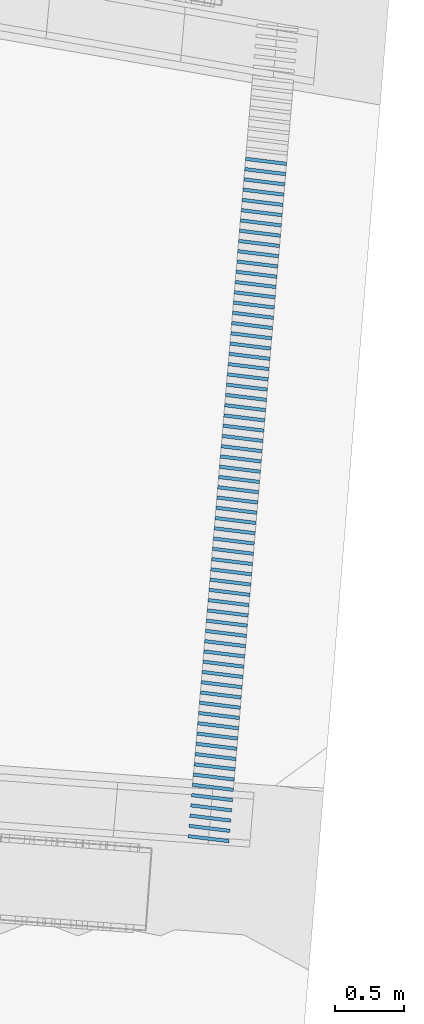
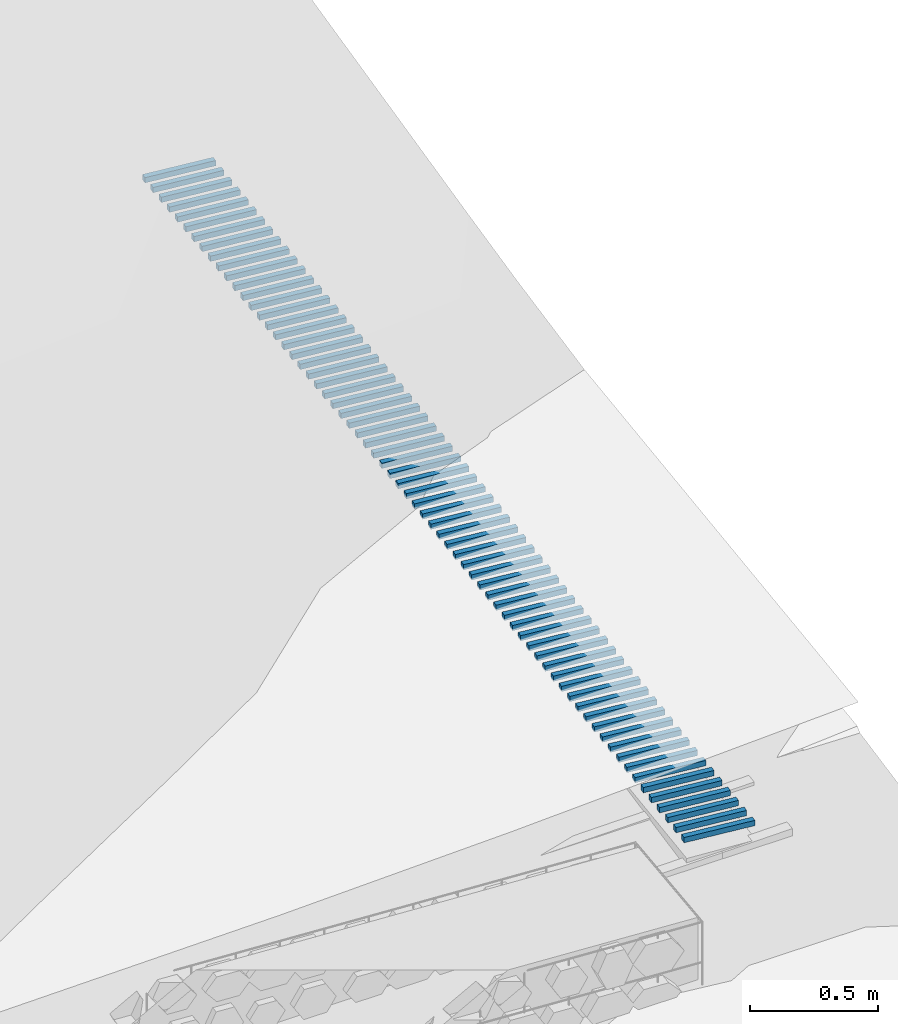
# Not in any storey, part 3 of 46: 67 members.
"""IFC4 model written with IfcOpenShell, lengths in metres."""

from ifc_helpers import new_model, si_unit, direction, frame, origin_with_axes, place, context, subcontext, project, spatial, rectangle, extrude, material, material_profile, profile_set, profile_usage, type_object, element, save


model = new_model("IFC4")

# Units and contexts
model_context = context("Model", 3, precision=1e-05, world=origin_with_axes(), true_north=direction((0.0, 1.0)))
body_context = subcontext(model_context, "Body", "Model", "MODEL_VIEW")
ifc_project = project(units=[si_unit("VOLUMEUNIT", "CUBIC_METRE"), si_unit("LENGTHUNIT", "METRE"), si_unit("AREAUNIT", "SQUARE_METRE")], contexts=[model_context])

# Site
site_placement = place(None, origin_with_axes())
site = spatial("IfcSite", under=ifc_project, at=site_placement, Name="Lares · Rua das Mercês · artigo 4771")

# Members
ifc_material = material(Name="Aço galvanizado / Stahl verzinkt", Category="steel")
ifc_material_profile = material_profile(ifc_material, rectangle(XDim=0.025, YDim=0.025))
ifc_profile_set = profile_set([ifc_material_profile], Name="R0.025")
ifc_profile_usage_1 = profile_usage(ifc_profile_set)
member_type = type_object("IfcMemberType", Name="R0.025 / galvanized", PredefinedType="NOTDEFINED", material=ifc_profile_set)
member_1_placement = place(site_placement, frame((82.2941833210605, 0.167332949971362, 16.1875545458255), z_axis=(0.992517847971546, -0.122099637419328, 0.0), x_axis=(-0.122099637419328, -0.992517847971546, 0.0)))
element("IfcMember", 1, at=member_1_placement, inside=site, type_object=member_type, material=ifc_profile_usage_1, Name="Interceção · grelha rua", context=body_context, shape_type="SweptSolid", body=[
    extrude(rectangle(XDim=0.025, YDim=0.025), origin_with_axes(), (0.0, 0.0, 1.0), 0.299999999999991),
])
ifc_profile_usage_2 = profile_usage(ifc_profile_set)
member_2_placement = place(site_placement, frame((82.3005272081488, 0.242064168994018, 16.1875545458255), z_axis=(0.992517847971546, -0.122099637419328, 0.0), x_axis=(-0.122099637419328, -0.992517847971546, 0.0)))
element("IfcMember", 2, at=member_2_placement, inside=site, type_object=member_type, material=ifc_profile_usage_2, Name="Interceção · grelha rua", context=body_context, shape_type="SweptSolid", body=[
    extrude(rectangle(XDim=0.025, YDim=0.025), origin_with_axes(), (0.0, 0.0, 1.0), 0.299999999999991),
])
ifc_profile_usage_3 = profile_usage(ifc_profile_set)
member_3_placement = place(site_placement, frame((82.306871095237, 0.31679538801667, 16.1875545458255), z_axis=(0.992517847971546, -0.122099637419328, 0.0), x_axis=(-0.122099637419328, -0.992517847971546, 0.0)))
element("IfcMember", 3, at=member_3_placement, inside=site, type_object=member_type, material=ifc_profile_usage_3, Name="Interceção · grelha rua", context=body_context, shape_type="SweptSolid", body=[
    extrude(rectangle(XDim=0.025, YDim=0.025), origin_with_axes(), (0.0, 0.0, 1.0), 0.299999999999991),
])
ifc_profile_usage_4 = profile_usage(ifc_profile_set)
member_4_placement = place(site_placement, frame((82.3132149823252, 0.391526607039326, 16.1875545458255), z_axis=(0.992517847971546, -0.122099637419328, 0.0), x_axis=(-0.122099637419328, -0.992517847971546, 0.0)))
element("IfcMember", 4, at=member_4_placement, inside=site, type_object=member_type, material=ifc_profile_usage_4, Name="Interceção · grelha rua", context=body_context, shape_type="SweptSolid", body=[
    extrude(rectangle(XDim=0.025, YDim=0.025), origin_with_axes(), (0.0, 0.0, 1.0), 0.299999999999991),
])
ifc_profile_usage_5 = profile_usage(ifc_profile_set)
member_5_placement = place(site_placement, frame((82.3195588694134, 0.466257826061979, 16.1875545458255), z_axis=(0.992517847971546, -0.122099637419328, 0.0), x_axis=(-0.122099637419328, -0.992517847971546, 0.0)))
element("IfcMember", 5, at=member_5_placement, inside=site, type_object=member_type, material=ifc_profile_usage_5, Name="Interceção · grelha rua", context=body_context, shape_type="SweptSolid", body=[
    extrude(rectangle(XDim=0.025, YDim=0.025), origin_with_axes(), (0.0, 0.0, 1.0), 0.299999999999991),
])
ifc_profile_usage_6 = profile_usage(ifc_profile_set)
member_6_placement = place(site_placement, frame((82.3259027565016, 0.540989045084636, 16.1875545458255), z_axis=(0.992517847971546, -0.122099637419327, 0.0), x_axis=(-0.122099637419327, -0.992517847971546, 0.0)))
element("IfcMember", 6, at=member_6_placement, inside=site, type_object=member_type, material=ifc_profile_usage_6, Name="Interceção · grelha rua", context=body_context, shape_type="SweptSolid", body=[
    extrude(rectangle(XDim=0.025, YDim=0.025), origin_with_axes(), (0.0, 0.0, 1.0), 0.299999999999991),
])
ifc_profile_usage_7 = profile_usage(ifc_profile_set)
member_7_placement = place(site_placement, frame((82.3322466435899, 0.615720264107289, 16.1878545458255), z_axis=(0.992517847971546, -0.122099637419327, 0.0), x_axis=(-0.122099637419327, -0.992517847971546, 0.0)))
element("IfcMember", 7, at=member_7_placement, inside=site, type_object=member_type, material=ifc_profile_usage_7, Name="Interceção · grelha rua", context=body_context, shape_type="SweptSolid", body=[
    extrude(rectangle(XDim=0.025, YDim=0.025), origin_with_axes(), (0.0, 0.0, 1.0), 0.299999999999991),
])
ifc_profile_usage_8 = profile_usage(ifc_profile_set)
member_8_placement = place(site_placement, frame((82.3385905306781, 0.690451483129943, 16.1886045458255), z_axis=(0.992517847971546, -0.122099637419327, 0.0), x_axis=(-0.122099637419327, -0.992517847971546, 0.0)))
element("IfcMember", 8, at=member_8_placement, inside=site, type_object=member_type, material=ifc_profile_usage_8, Name="Interceção · grelha rua", context=body_context, shape_type="SweptSolid", body=[
    extrude(rectangle(XDim=0.025, YDim=0.025), origin_with_axes(), (0.0, 0.0, 1.0), 0.299999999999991),
])
ifc_profile_usage_9 = profile_usage(ifc_profile_set)
member_9_placement = place(site_placement, frame((82.3449344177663, 0.765182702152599, 16.1893545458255), z_axis=(0.992517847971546, -0.122099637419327, 0.0), x_axis=(-0.122099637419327, -0.992517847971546, 0.0)))
element("IfcMember", 9, at=member_9_placement, inside=site, type_object=member_type, material=ifc_profile_usage_9, Name="Interceção · grelha rua", context=body_context, shape_type="SweptSolid", body=[
    extrude(rectangle(XDim=0.025, YDim=0.025), origin_with_axes(), (0.0, 0.0, 1.0), 0.299999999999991),
])
ifc_profile_usage_10 = profile_usage(ifc_profile_set)
member_10_placement = place(site_placement, frame((82.3512783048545, 0.839913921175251, 16.1901045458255), z_axis=(0.992517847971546, -0.122099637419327, 0.0), x_axis=(-0.122099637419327, -0.992517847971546, 0.0)))
element("IfcMember", 10, at=member_10_placement, inside=site, type_object=member_type, material=ifc_profile_usage_10, Name="Interceção · grelha rua", context=body_context, shape_type="SweptSolid", body=[
    extrude(rectangle(XDim=0.025, YDim=0.025), origin_with_axes(), (0.0, 0.0, 1.0), 0.299999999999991),
])
ifc_profile_usage_11 = profile_usage(ifc_profile_set)
member_11_placement = place(site_placement, frame((82.3576221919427, 0.914645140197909, 16.1908545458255), z_axis=(0.992517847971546, -0.122099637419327, 0.0), x_axis=(-0.122099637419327, -0.992517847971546, 0.0)))
element("IfcMember", 11, at=member_11_placement, inside=site, type_object=member_type, material=ifc_profile_usage_11, Name="Interceção · grelha rua", context=body_context, shape_type="SweptSolid", body=[
    extrude(rectangle(XDim=0.025, YDim=0.025), origin_with_axes(), (0.0, 0.0, 1.0), 0.299999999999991),
])
ifc_profile_usage_12 = profile_usage(ifc_profile_set)
member_12_placement = place(site_placement, frame((82.363966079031, 0.989376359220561, 16.1916045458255), z_axis=(0.992517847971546, -0.122099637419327, 0.0), x_axis=(-0.122099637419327, -0.992517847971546, 0.0)))
element("IfcMember", 12, at=member_12_placement, inside=site, type_object=member_type, material=ifc_profile_usage_12, Name="Interceção · grelha rua", context=body_context, shape_type="SweptSolid", body=[
    extrude(rectangle(XDim=0.025, YDim=0.025), origin_with_axes(), (0.0, 0.0, 1.0), 0.299999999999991),
])
ifc_profile_usage_13 = profile_usage(ifc_profile_set)
member_13_placement = place(site_placement, frame((82.3703099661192, 1.06410757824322, 16.1923545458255), z_axis=(0.992517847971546, -0.122099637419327, 0.0), x_axis=(-0.122099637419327, -0.992517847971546, 0.0)))
element("IfcMember", 13, at=member_13_placement, inside=site, type_object=member_type, material=ifc_profile_usage_13, Name="Interceção · grelha rua", context=body_context, shape_type="SweptSolid", body=[
    extrude(rectangle(XDim=0.025, YDim=0.025), origin_with_axes(), (0.0, 0.0, 1.0), 0.299999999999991),
])
ifc_profile_usage_14 = profile_usage(ifc_profile_set)
member_14_placement = place(site_placement, frame((82.3766538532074, 1.13883879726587, 16.1931045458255), z_axis=(0.992517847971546, -0.122099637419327, 0.0), x_axis=(-0.122099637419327, -0.992517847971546, 0.0)))
element("IfcMember", 14, at=member_14_placement, inside=site, type_object=member_type, material=ifc_profile_usage_14, Name="Interceção · grelha rua", context=body_context, shape_type="SweptSolid", body=[
    extrude(rectangle(XDim=0.025, YDim=0.025), origin_with_axes(), (0.0, 0.0, 1.0), 0.299999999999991),
])
ifc_profile_usage_15 = profile_usage(ifc_profile_set)
member_15_placement = place(site_placement, frame((82.3829977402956, 1.21357001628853, 16.1938545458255), z_axis=(0.992517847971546, -0.122099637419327, 0.0), x_axis=(-0.122099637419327, -0.992517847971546, 0.0)))
element("IfcMember", 15, at=member_15_placement, inside=site, type_object=member_type, material=ifc_profile_usage_15, Name="Interceção · grelha rua", context=body_context, shape_type="SweptSolid", body=[
    extrude(rectangle(XDim=0.025, YDim=0.025), origin_with_axes(), (0.0, 0.0, 1.0), 0.299999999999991),
])
ifc_profile_usage_16 = profile_usage(ifc_profile_set)
member_16_placement = place(site_placement, frame((82.3893416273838, 1.28830123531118, 16.1946045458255), z_axis=(0.992517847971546, -0.122099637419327, 0.0), x_axis=(-0.122099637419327, -0.992517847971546, 0.0)))
element("IfcMember", 16, at=member_16_placement, inside=site, type_object=member_type, material=ifc_profile_usage_16, Name="Interceção · grelha rua", context=body_context, shape_type="SweptSolid", body=[
    extrude(rectangle(XDim=0.025, YDim=0.025), origin_with_axes(), (0.0, 0.0, 1.0), 0.299999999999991),
])
ifc_profile_usage_17 = profile_usage(ifc_profile_set)
member_17_placement = place(site_placement, frame((82.395685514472, 1.36303245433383, 16.1953545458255), z_axis=(0.992517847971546, -0.122099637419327, 0.0), x_axis=(-0.122099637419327, -0.992517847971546, 0.0)))
element("IfcMember", 17, at=member_17_placement, inside=site, type_object=member_type, material=ifc_profile_usage_17, Name="Interceção · grelha rua", context=body_context, shape_type="SweptSolid", body=[
    extrude(rectangle(XDim=0.025, YDim=0.025), origin_with_axes(), (0.0, 0.0, 1.0), 0.299999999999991),
])
ifc_profile_usage_18 = profile_usage(ifc_profile_set)
member_18_placement = place(site_placement, frame((82.4020294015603, 1.43776367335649, 16.1961045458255), z_axis=(0.992517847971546, -0.122099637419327, 0.0), x_axis=(-0.122099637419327, -0.992517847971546, 0.0)))
element("IfcMember", 18, at=member_18_placement, inside=site, type_object=member_type, material=ifc_profile_usage_18, Name="Interceção · grelha rua", context=body_context, shape_type="SweptSolid", body=[
    extrude(rectangle(XDim=0.025, YDim=0.025), origin_with_axes(), (0.0, 0.0, 1.0), 0.299999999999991),
])
ifc_profile_usage_19 = profile_usage(ifc_profile_set)
member_19_placement = place(site_placement, frame((82.4083732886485, 1.51249489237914, 16.1968545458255), z_axis=(0.992517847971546, -0.122099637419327, 0.0), x_axis=(-0.122099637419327, -0.992517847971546, 0.0)))
element("IfcMember", 19, at=member_19_placement, inside=site, type_object=member_type, material=ifc_profile_usage_19, Name="Interceção · grelha rua", context=body_context, shape_type="SweptSolid", body=[
    extrude(rectangle(XDim=0.025, YDim=0.025), origin_with_axes(), (0.0, 0.0, 1.0), 0.299999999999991),
])
ifc_profile_usage_20 = profile_usage(ifc_profile_set)
member_20_placement = place(site_placement, frame((82.4147171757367, 1.5872261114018, 16.1976045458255), z_axis=(0.992517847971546, -0.122099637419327, 0.0), x_axis=(-0.122099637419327, -0.992517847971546, 0.0)))
element("IfcMember", 20, at=member_20_placement, inside=site, type_object=member_type, material=ifc_profile_usage_20, Name="Interceção · grelha rua", context=body_context, shape_type="SweptSolid", body=[
    extrude(rectangle(XDim=0.025, YDim=0.025), origin_with_axes(), (0.0, 0.0, 1.0), 0.299999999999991),
])
ifc_profile_usage_21 = profile_usage(ifc_profile_set)
member_21_placement = place(site_placement, frame((82.4210610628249, 1.66195733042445, 16.1983545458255), z_axis=(0.992517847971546, -0.122099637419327, 0.0), x_axis=(-0.122099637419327, -0.992517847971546, 0.0)))
element("IfcMember", 21, at=member_21_placement, inside=site, type_object=member_type, material=ifc_profile_usage_21, Name="Interceção · grelha rua", context=body_context, shape_type="SweptSolid", body=[
    extrude(rectangle(XDim=0.025, YDim=0.025), origin_with_axes(), (0.0, 0.0, 1.0), 0.299999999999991),
])
ifc_profile_usage_22 = profile_usage(ifc_profile_set)
member_22_placement = place(site_placement, frame((82.4274049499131, 1.73668854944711, 16.1991045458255), z_axis=(0.992517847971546, -0.122099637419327, 0.0), x_axis=(-0.122099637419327, -0.992517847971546, 0.0)))
element("IfcMember", 22, at=member_22_placement, inside=site, type_object=member_type, material=ifc_profile_usage_22, Name="Interceção · grelha rua", context=body_context, shape_type="SweptSolid", body=[
    extrude(rectangle(XDim=0.025, YDim=0.025), origin_with_axes(), (0.0, 0.0, 1.0), 0.299999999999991),
])
ifc_profile_usage_23 = profile_usage(ifc_profile_set)
member_23_placement = place(site_placement, frame((82.4337488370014, 1.81141976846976, 16.1998545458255), z_axis=(0.992517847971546, -0.122099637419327, 0.0), x_axis=(-0.122099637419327, -0.992517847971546, 0.0)))
element("IfcMember", 23, at=member_23_placement, inside=site, type_object=member_type, material=ifc_profile_usage_23, Name="Interceção · grelha rua", context=body_context, shape_type="SweptSolid", body=[
    extrude(rectangle(XDim=0.025, YDim=0.025), origin_with_axes(), (0.0, 0.0, 1.0), 0.299999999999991),
])
ifc_profile_usage_24 = profile_usage(ifc_profile_set)
member_24_placement = place(site_placement, frame((82.4400927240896, 1.88615098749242, 16.2006045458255), z_axis=(0.992517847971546, -0.122099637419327, 0.0), x_axis=(-0.122099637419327, -0.992517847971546, 0.0)))
element("IfcMember", 24, at=member_24_placement, inside=site, type_object=member_type, material=ifc_profile_usage_24, Name="Interceção · grelha rua", context=body_context, shape_type="SweptSolid", body=[
    extrude(rectangle(XDim=0.025, YDim=0.025), origin_with_axes(), (0.0, 0.0, 1.0), 0.299999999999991),
])
ifc_profile_usage_25 = profile_usage(ifc_profile_set)
member_25_placement = place(site_placement, frame((82.4464366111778, 1.96088220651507, 16.2013545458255), z_axis=(0.992517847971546, -0.122099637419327, 0.0), x_axis=(-0.122099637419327, -0.992517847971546, 0.0)))
element("IfcMember", 25, at=member_25_placement, inside=site, type_object=member_type, material=ifc_profile_usage_25, Name="Interceção · grelha rua", context=body_context, shape_type="SweptSolid", body=[
    extrude(rectangle(XDim=0.025, YDim=0.025), origin_with_axes(), (0.0, 0.0, 1.0), 0.299999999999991),
])
ifc_profile_usage_26 = profile_usage(ifc_profile_set)
member_26_placement = place(site_placement, frame((82.452780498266, 2.03561342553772, 16.2021045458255), z_axis=(0.992517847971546, -0.122099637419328, 0.0), x_axis=(-0.122099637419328, -0.992517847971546, 0.0)))
element("IfcMember", 26, at=member_26_placement, inside=site, type_object=member_type, material=ifc_profile_usage_26, Name="Interceção · grelha rua", context=body_context, shape_type="SweptSolid", body=[
    extrude(rectangle(XDim=0.025, YDim=0.025), origin_with_axes(), (0.0, 0.0, 1.0), 0.299999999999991),
])
ifc_profile_usage_27 = profile_usage(ifc_profile_set)
member_27_placement = place(site_placement, frame((82.4591243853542, 2.11034464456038, 16.2028545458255), z_axis=(0.992517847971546, -0.122099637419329, 0.0), x_axis=(-0.122099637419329, -0.992517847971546, 0.0)))
element("IfcMember", 27, at=member_27_placement, inside=site, type_object=member_type, material=ifc_profile_usage_27, Name="Interceção · grelha rua", context=body_context, shape_type="SweptSolid", body=[
    extrude(rectangle(XDim=0.025, YDim=0.025), origin_with_axes(), (0.0, 0.0, 1.0), 0.299999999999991),
])
ifc_profile_usage_28 = profile_usage(ifc_profile_set)
member_28_placement = place(site_placement, frame((82.4654682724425, 2.18507586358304, 16.2036045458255), z_axis=(0.992517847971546, -0.122099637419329, 0.0), x_axis=(-0.122099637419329, -0.992517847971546, 0.0)))
element("IfcMember", 28, at=member_28_placement, inside=site, type_object=member_type, material=ifc_profile_usage_28, Name="Interceção · grelha rua", context=body_context, shape_type="SweptSolid", body=[
    extrude(rectangle(XDim=0.025, YDim=0.025), origin_with_axes(), (0.0, 0.0, 1.0), 0.299999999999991),
])
ifc_profile_usage_29 = profile_usage(ifc_profile_set)
member_29_placement = place(site_placement, frame((82.4718121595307, 2.25980708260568, 16.2043545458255), z_axis=(0.992517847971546, -0.122099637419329, 0.0), x_axis=(-0.122099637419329, -0.992517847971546, 0.0)))
element("IfcMember", 29, at=member_29_placement, inside=site, type_object=member_type, material=ifc_profile_usage_29, Name="Interceção · grelha rua", context=body_context, shape_type="SweptSolid", body=[
    extrude(rectangle(XDim=0.025, YDim=0.025), origin_with_axes(), (0.0, 0.0, 1.0), 0.299999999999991),
])
ifc_profile_usage_30 = profile_usage(ifc_profile_set)
member_30_placement = place(site_placement, frame((82.4781560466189, 2.33453830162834, 16.2051045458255), z_axis=(0.992517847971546, -0.122099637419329, 0.0), x_axis=(-0.122099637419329, -0.992517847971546, 0.0)))
element("IfcMember", 30, at=member_30_placement, inside=site, type_object=member_type, material=ifc_profile_usage_30, Name="Interceção · grelha rua", context=body_context, shape_type="SweptSolid", body=[
    extrude(rectangle(XDim=0.025, YDim=0.025), origin_with_axes(), (0.0, 0.0, 1.0), 0.299999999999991),
])
ifc_profile_usage_31 = profile_usage(ifc_profile_set)
member_31_placement = place(site_placement, frame((82.4844999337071, 2.409269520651, 16.2058545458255), z_axis=(0.992517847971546, -0.122099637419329, 0.0), x_axis=(-0.122099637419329, -0.992517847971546, 0.0)))
element("IfcMember", 31, at=member_31_placement, inside=site, type_object=member_type, material=ifc_profile_usage_31, Name="Interceção · grelha rua", context=body_context, shape_type="SweptSolid", body=[
    extrude(rectangle(XDim=0.025, YDim=0.025), origin_with_axes(), (0.0, 0.0, 1.0), 0.299999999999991),
])
ifc_profile_usage_32 = profile_usage(ifc_profile_set)
member_32_placement = place(site_placement, frame((82.4908438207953, 2.48400073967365, 16.2066045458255), z_axis=(0.992517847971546, -0.122099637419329, 0.0), x_axis=(-0.122099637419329, -0.992517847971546, 0.0)))
element("IfcMember", 32, at=member_32_placement, inside=site, type_object=member_type, material=ifc_profile_usage_32, Name="Interceção · grelha rua", context=body_context, shape_type="SweptSolid", body=[
    extrude(rectangle(XDim=0.025, YDim=0.025), origin_with_axes(), (0.0, 0.0, 1.0), 0.299999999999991),
])
ifc_profile_usage_33 = profile_usage(ifc_profile_set)
member_33_placement = place(site_placement, frame((82.4971877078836, 2.55873195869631, 16.2073545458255), z_axis=(0.992517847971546, -0.122099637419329, 0.0), x_axis=(-0.122099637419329, -0.992517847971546, 0.0)))
element("IfcMember", 33, at=member_33_placement, inside=site, type_object=member_type, material=ifc_profile_usage_33, Name="Interceção · grelha rua", context=body_context, shape_type="SweptSolid", body=[
    extrude(rectangle(XDim=0.025, YDim=0.025), origin_with_axes(), (0.0, 0.0, 1.0), 0.299999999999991),
])
ifc_profile_usage_34 = profile_usage(ifc_profile_set)
member_34_placement = place(site_placement, frame((82.5035315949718, 2.63346317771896, 16.2081045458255), z_axis=(0.992517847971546, -0.122099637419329, 0.0), x_axis=(-0.122099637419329, -0.992517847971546, 0.0)))
element("IfcMember", 34, at=member_34_placement, inside=site, type_object=member_type, material=ifc_profile_usage_34, Name="Interceção · grelha rua", context=body_context, shape_type="SweptSolid", body=[
    extrude(rectangle(XDim=0.025, YDim=0.025), origin_with_axes(), (0.0, 0.0, 1.0), 0.299999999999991),
])
ifc_profile_usage_35 = profile_usage(ifc_profile_set)
member_35_placement = place(site_placement, frame((82.50987548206, 2.70819439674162, 16.2088545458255), z_axis=(0.992517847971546, -0.122099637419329, 0.0), x_axis=(-0.122099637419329, -0.992517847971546, 0.0)))
element("IfcMember", 35, at=member_35_placement, inside=site, type_object=member_type, material=ifc_profile_usage_35, Name="Interceção · grelha rua", context=body_context, shape_type="SweptSolid", body=[
    extrude(rectangle(XDim=0.025, YDim=0.025), origin_with_axes(), (0.0, 0.0, 1.0), 0.299999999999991),
])
ifc_profile_usage_36 = profile_usage(ifc_profile_set)
member_36_placement = place(site_placement, frame((82.5162193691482, 2.78292561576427, 16.2096045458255), z_axis=(0.992517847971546, -0.122099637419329, 0.0), x_axis=(-0.122099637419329, -0.992517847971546, 0.0)))
element("IfcMember", 36, at=member_36_placement, inside=site, type_object=member_type, material=ifc_profile_usage_36, Name="Interceção · grelha rua", context=body_context, shape_type="SweptSolid", body=[
    extrude(rectangle(XDim=0.025, YDim=0.025), origin_with_axes(), (0.0, 0.0, 1.0), 0.299999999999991),
])
ifc_profile_usage_37 = profile_usage(ifc_profile_set)
member_37_placement = place(site_placement, frame((82.5225632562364, 2.85765683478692, 16.2103545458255), z_axis=(0.992517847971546, -0.122099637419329, 0.0), x_axis=(-0.122099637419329, -0.992517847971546, 0.0)))
element("IfcMember", 37, at=member_37_placement, inside=site, type_object=member_type, material=ifc_profile_usage_37, Name="Interceção · grelha rua", context=body_context, shape_type="SweptSolid", body=[
    extrude(rectangle(XDim=0.025, YDim=0.025), origin_with_axes(), (0.0, 0.0, 1.0), 0.299999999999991),
])
ifc_profile_usage_38 = profile_usage(ifc_profile_set)
member_38_placement = place(site_placement, frame((82.5289071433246, 2.93238805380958, 16.2111045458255), z_axis=(0.992517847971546, -0.122099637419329, 0.0), x_axis=(-0.122099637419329, -0.992517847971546, 0.0)))
element("IfcMember", 38, at=member_38_placement, inside=site, type_object=member_type, material=ifc_profile_usage_38, Name="Interceção · grelha rua", context=body_context, shape_type="SweptSolid", body=[
    extrude(rectangle(XDim=0.025, YDim=0.025), origin_with_axes(), (0.0, 0.0, 1.0), 0.299999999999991),
])
ifc_profile_usage_39 = profile_usage(ifc_profile_set)
member_39_placement = place(site_placement, frame((82.5352510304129, 3.00711927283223, 16.2118545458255), z_axis=(0.992517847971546, -0.122099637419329, 0.0), x_axis=(-0.122099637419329, -0.992517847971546, 0.0)))
element("IfcMember", 39, at=member_39_placement, inside=site, type_object=member_type, material=ifc_profile_usage_39, Name="Interceção · grelha rua", context=body_context, shape_type="SweptSolid", body=[
    extrude(rectangle(XDim=0.025, YDim=0.025), origin_with_axes(), (0.0, 0.0, 1.0), 0.299999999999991),
])
ifc_profile_usage_40 = profile_usage(ifc_profile_set)
member_40_placement = place(site_placement, frame((82.5415949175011, 3.08185049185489, 16.2126045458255), z_axis=(0.992517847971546, -0.122099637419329, 0.0), x_axis=(-0.122099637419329, -0.992517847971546, 0.0)))
element("IfcMember", 40, at=member_40_placement, inside=site, type_object=member_type, material=ifc_profile_usage_40, Name="Interceção · grelha rua", context=body_context, shape_type="SweptSolid", body=[
    extrude(rectangle(XDim=0.025, YDim=0.025), origin_with_axes(), (0.0, 0.0, 1.0), 0.299999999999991),
])
ifc_profile_usage_41 = profile_usage(ifc_profile_set)
member_41_placement = place(site_placement, frame((82.5479388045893, 3.15658171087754, 16.2125398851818), z_axis=(0.992517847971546, -0.122099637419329, 0.0), x_axis=(-0.122099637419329, -0.992517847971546, 0.0)))
element("IfcMember", 41, at=member_41_placement, inside=site, type_object=member_type, material=ifc_profile_usage_41, Name="Interceção · grelha rua", context=body_context, shape_type="SweptSolid", body=[
    extrude(rectangle(XDim=0.025, YDim=0.025), origin_with_axes(), (0.0, 0.0, 1.0), 0.299999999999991),
])
ifc_profile_usage_42 = profile_usage(ifc_profile_set)
member_42_placement = place(site_placement, frame((82.5542826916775, 3.2313129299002, 16.2117898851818), z_axis=(0.992517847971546, -0.122099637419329, 0.0), x_axis=(-0.122099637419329, -0.992517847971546, 0.0)))
element("IfcMember", 42, at=member_42_placement, inside=site, type_object=member_type, material=ifc_profile_usage_42, Name="Interceção · grelha rua", context=body_context, shape_type="SweptSolid", body=[
    extrude(rectangle(XDim=0.025, YDim=0.025), origin_with_axes(), (0.0, 0.0, 1.0), 0.299999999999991),
])
ifc_profile_usage_43 = profile_usage(ifc_profile_set)
member_43_placement = place(site_placement, frame((82.5606265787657, 3.30604414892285, 16.2110398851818), z_axis=(0.992517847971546, -0.122099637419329, 0.0), x_axis=(-0.122099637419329, -0.992517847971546, 0.0)))
element("IfcMember", 43, at=member_43_placement, inside=site, type_object=member_type, material=ifc_profile_usage_43, Name="Interceção · grelha rua", context=body_context, shape_type="SweptSolid", body=[
    extrude(rectangle(XDim=0.025, YDim=0.025), origin_with_axes(), (0.0, 0.0, 1.0), 0.299999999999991),
])
ifc_profile_usage_44 = profile_usage(ifc_profile_set)
member_44_placement = place(site_placement, frame((82.566970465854, 3.38077536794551, 16.2102898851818), z_axis=(0.992517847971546, -0.122099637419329, 0.0), x_axis=(-0.122099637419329, -0.992517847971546, 0.0)))
element("IfcMember", 44, at=member_44_placement, inside=site, type_object=member_type, material=ifc_profile_usage_44, Name="Interceção · grelha rua", context=body_context, shape_type="SweptSolid", body=[
    extrude(rectangle(XDim=0.025, YDim=0.025), origin_with_axes(), (0.0, 0.0, 1.0), 0.299999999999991),
])
ifc_profile_usage_45 = profile_usage(ifc_profile_set)
member_45_placement = place(site_placement, frame((82.5733143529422, 3.45550658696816, 16.2095398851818), z_axis=(0.992517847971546, -0.122099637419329, 0.0), x_axis=(-0.122099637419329, -0.992517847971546, 0.0)))
element("IfcMember", 45, at=member_45_placement, inside=site, type_object=member_type, material=ifc_profile_usage_45, Name="Interceção · grelha rua", context=body_context, shape_type="SweptSolid", body=[
    extrude(rectangle(XDim=0.025, YDim=0.025), origin_with_axes(), (0.0, 0.0, 1.0), 0.299999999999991),
])
ifc_profile_usage_46 = profile_usage(ifc_profile_set)
member_46_placement = place(site_placement, frame((82.5796582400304, 3.53023780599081, 16.2087898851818), z_axis=(0.992517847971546, -0.122099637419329, 0.0), x_axis=(-0.122099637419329, -0.992517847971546, 0.0)))
element("IfcMember", 46, at=member_46_placement, inside=site, type_object=member_type, material=ifc_profile_usage_46, Name="Interceção · grelha rua", context=body_context, shape_type="SweptSolid", body=[
    extrude(rectangle(XDim=0.025, YDim=0.025), origin_with_axes(), (0.0, 0.0, 1.0), 0.299999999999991),
])
ifc_profile_usage_47 = profile_usage(ifc_profile_set)
member_47_placement = place(site_placement, frame((82.5860021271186, 3.60496902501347, 16.2080398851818), z_axis=(0.992517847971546, -0.122099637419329, 0.0), x_axis=(-0.122099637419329, -0.992517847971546, 0.0)))
element("IfcMember", 47, at=member_47_placement, inside=site, type_object=member_type, material=ifc_profile_usage_47, Name="Interceção · grelha rua", context=body_context, shape_type="SweptSolid", body=[
    extrude(rectangle(XDim=0.025, YDim=0.025), origin_with_axes(), (0.0, 0.0, 1.0), 0.299999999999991),
])
ifc_profile_usage_48 = profile_usage(ifc_profile_set)
member_48_placement = place(site_placement, frame((82.5923460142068, 3.67970024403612, 16.2072898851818), z_axis=(0.992517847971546, -0.122099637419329, 0.0), x_axis=(-0.122099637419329, -0.992517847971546, 0.0)))
element("IfcMember", 48, at=member_48_placement, inside=site, type_object=member_type, material=ifc_profile_usage_48, Name="Interceção · grelha rua", context=body_context, shape_type="SweptSolid", body=[
    extrude(rectangle(XDim=0.025, YDim=0.025), origin_with_axes(), (0.0, 0.0, 1.0), 0.299999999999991),
])
ifc_profile_usage_49 = profile_usage(ifc_profile_set)
member_49_placement = place(site_placement, frame((82.5986899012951, 3.75443146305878, 16.2065398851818), z_axis=(0.992517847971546, -0.122099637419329, 0.0), x_axis=(-0.122099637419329, -0.992517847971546, 0.0)))
element("IfcMember", 49, at=member_49_placement, inside=site, type_object=member_type, material=ifc_profile_usage_49, Name="Interceção · grelha rua", context=body_context, shape_type="SweptSolid", body=[
    extrude(rectangle(XDim=0.025, YDim=0.025), origin_with_axes(), (0.0, 0.0, 1.0), 0.299999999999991),
])
ifc_profile_usage_50 = profile_usage(ifc_profile_set)
member_50_placement = place(site_placement, frame((82.6050337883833, 3.82916268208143, 16.2057898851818), z_axis=(0.992517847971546, -0.122099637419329, 0.0), x_axis=(-0.122099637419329, -0.992517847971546, 0.0)))
element("IfcMember", 50, at=member_50_placement, inside=site, type_object=member_type, material=ifc_profile_usage_50, Name="Interceção · grelha rua", context=body_context, shape_type="SweptSolid", body=[
    extrude(rectangle(XDim=0.025, YDim=0.025), origin_with_axes(), (0.0, 0.0, 1.0), 0.299999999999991),
])
ifc_profile_usage_51 = profile_usage(ifc_profile_set)
member_51_placement = place(site_placement, frame((82.6113776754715, 3.90389390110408, 16.2050398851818), z_axis=(0.992517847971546, -0.122099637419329, 0.0), x_axis=(-0.122099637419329, -0.992517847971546, 0.0)))
element("IfcMember", 51, at=member_51_placement, inside=site, type_object=member_type, material=ifc_profile_usage_51, Name="Interceção · grelha rua", context=body_context, shape_type="SweptSolid", body=[
    extrude(rectangle(XDim=0.025, YDim=0.025), origin_with_axes(), (0.0, 0.0, 1.0), 0.299999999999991),
])
ifc_profile_usage_52 = profile_usage(ifc_profile_set)
member_52_placement = place(site_placement, frame((82.6177215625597, 3.97862512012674, 16.2042898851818), z_axis=(0.992517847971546, -0.122099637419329, 0.0), x_axis=(-0.122099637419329, -0.992517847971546, 0.0)))
element("IfcMember", 52, at=member_52_placement, inside=site, type_object=member_type, material=ifc_profile_usage_52, Name="Interceção · grelha rua", context=body_context, shape_type="SweptSolid", body=[
    extrude(rectangle(XDim=0.025, YDim=0.025), origin_with_axes(), (0.0, 0.0, 1.0), 0.299999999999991),
])
ifc_profile_usage_53 = profile_usage(ifc_profile_set)
member_53_placement = place(site_placement, frame((82.624065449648, 4.05335633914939, 16.2035398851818), z_axis=(0.992517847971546, -0.122099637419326, 0.0), x_axis=(-0.122099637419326, -0.992517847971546, 0.0)))
element("IfcMember", 53, at=member_53_placement, inside=site, type_object=member_type, material=ifc_profile_usage_53, Name="Interceção · grelha rua", context=body_context, shape_type="SweptSolid", body=[
    extrude(rectangle(XDim=0.025, YDim=0.025), origin_with_axes(), (0.0, 0.0, 1.0), 0.299999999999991),
])
ifc_profile_usage_54 = profile_usage(ifc_profile_set)
member_54_placement = place(site_placement, frame((82.6304093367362, 4.12808755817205, 16.2027898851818), z_axis=(0.992517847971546, -0.122099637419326, 0.0), x_axis=(-0.122099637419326, -0.992517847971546, 0.0)))
element("IfcMember", 54, at=member_54_placement, inside=site, type_object=member_type, material=ifc_profile_usage_54, Name="Interceção · grelha rua", context=body_context, shape_type="SweptSolid", body=[
    extrude(rectangle(XDim=0.025, YDim=0.025), origin_with_axes(), (0.0, 0.0, 1.0), 0.299999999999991),
])
ifc_profile_usage_55 = profile_usage(ifc_profile_set)
member_55_placement = place(site_placement, frame((82.6367532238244, 4.2028187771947, 16.2020398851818), z_axis=(0.992517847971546, -0.122099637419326, 0.0), x_axis=(-0.122099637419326, -0.992517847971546, 0.0)))
element("IfcMember", 55, at=member_55_placement, inside=site, type_object=member_type, material=ifc_profile_usage_55, Name="Interceção · grelha rua", context=body_context, shape_type="SweptSolid", body=[
    extrude(rectangle(XDim=0.025, YDim=0.025), origin_with_axes(), (0.0, 0.0, 1.0), 0.299999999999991),
])
ifc_profile_usage_56 = profile_usage(ifc_profile_set)
member_56_placement = place(site_placement, frame((82.6430971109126, 4.27754999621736, 16.2012898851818), z_axis=(0.992517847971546, -0.122099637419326, 0.0), x_axis=(-0.122099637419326, -0.992517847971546, 0.0)))
element("IfcMember", 56, at=member_56_placement, inside=site, type_object=member_type, material=ifc_profile_usage_56, Name="Interceção · grelha rua", context=body_context, shape_type="SweptSolid", body=[
    extrude(rectangle(XDim=0.025, YDim=0.025), origin_with_axes(), (0.0, 0.0, 1.0), 0.299999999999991),
])
ifc_profile_usage_57 = profile_usage(ifc_profile_set)
member_57_placement = place(site_placement, frame((82.6494409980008, 4.35228121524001, 16.2005398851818), z_axis=(0.992517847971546, -0.122099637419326, 0.0), x_axis=(-0.122099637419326, -0.992517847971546, 0.0)))
element("IfcMember", 57, at=member_57_placement, inside=site, type_object=member_type, material=ifc_profile_usage_57, Name="Interceção · grelha rua", context=body_context, shape_type="SweptSolid", body=[
    extrude(rectangle(XDim=0.025, YDim=0.025), origin_with_axes(), (0.0, 0.0, 1.0), 0.299999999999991),
])
ifc_profile_usage_58 = profile_usage(ifc_profile_set)
member_58_placement = place(site_placement, frame((82.655784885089, 4.42701243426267, 16.1997898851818), z_axis=(0.992517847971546, -0.122099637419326, 0.0), x_axis=(-0.122099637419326, -0.992517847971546, 0.0)))
element("IfcMember", 58, at=member_58_placement, inside=site, type_object=member_type, material=ifc_profile_usage_58, Name="Interceção · grelha rua", context=body_context, shape_type="SweptSolid", body=[
    extrude(rectangle(XDim=0.025, YDim=0.025), origin_with_axes(), (0.0, 0.0, 1.0), 0.299999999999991),
])
ifc_profile_usage_59 = profile_usage(ifc_profile_set)
member_59_placement = place(site_placement, frame((82.6621287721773, 4.50174365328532, 16.1990398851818), z_axis=(0.992517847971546, -0.122099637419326, 0.0), x_axis=(-0.122099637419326, -0.992517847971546, 0.0)))
element("IfcMember", 59, at=member_59_placement, inside=site, type_object=member_type, material=ifc_profile_usage_59, Name="Interceção · grelha rua", context=body_context, shape_type="SweptSolid", body=[
    extrude(rectangle(XDim=0.025, YDim=0.025), origin_with_axes(), (0.0, 0.0, 1.0), 0.299999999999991),
])
ifc_profile_usage_60 = profile_usage(ifc_profile_set)
member_60_placement = place(site_placement, frame((82.6684726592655, 4.57647487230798, 16.1982898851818), z_axis=(0.992517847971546, -0.122099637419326, 0.0), x_axis=(-0.122099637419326, -0.992517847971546, 0.0)))
element("IfcMember", 60, at=member_60_placement, inside=site, type_object=member_type, material=ifc_profile_usage_60, Name="Interceção · grelha rua", context=body_context, shape_type="SweptSolid", body=[
    extrude(rectangle(XDim=0.025, YDim=0.025), origin_with_axes(), (0.0, 0.0, 1.0), 0.299999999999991),
])
ifc_profile_usage_61 = profile_usage(ifc_profile_set)
member_61_placement = place(site_placement, frame((82.6748165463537, 4.65120609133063, 16.1975398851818), z_axis=(0.992517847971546, -0.122099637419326, 0.0), x_axis=(-0.122099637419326, -0.992517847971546, 0.0)))
element("IfcMember", 61, at=member_61_placement, inside=site, type_object=member_type, material=ifc_profile_usage_61, Name="Interceção · grelha rua", context=body_context, shape_type="SweptSolid", body=[
    extrude(rectangle(XDim=0.025, YDim=0.025), origin_with_axes(), (0.0, 0.0, 1.0), 0.299999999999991),
])
ifc_profile_usage_62 = profile_usage(ifc_profile_set)
member_62_placement = place(site_placement, frame((82.6811604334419, 4.72593731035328, 16.1967898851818), z_axis=(0.992517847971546, -0.122099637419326, 0.0), x_axis=(-0.122099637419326, -0.992517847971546, 0.0)))
element("IfcMember", 62, at=member_62_placement, inside=site, type_object=member_type, material=ifc_profile_usage_62, Name="Interceção · grelha rua", context=body_context, shape_type="SweptSolid", body=[
    extrude(rectangle(XDim=0.025, YDim=0.025), origin_with_axes(), (0.0, 0.0, 1.0), 0.299999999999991),
])
ifc_profile_usage_63 = profile_usage(ifc_profile_set)
member_63_placement = place(site_placement, frame((82.6875043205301, 4.80066852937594, 16.1960398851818), z_axis=(0.992517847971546, -0.122099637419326, 0.0), x_axis=(-0.122099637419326, -0.992517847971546, 0.0)))
element("IfcMember", 63, at=member_63_placement, inside=site, type_object=member_type, material=ifc_profile_usage_63, Name="Interceção · grelha rua", context=body_context, shape_type="SweptSolid", body=[
    extrude(rectangle(XDim=0.025, YDim=0.025), origin_with_axes(), (0.0, 0.0, 1.0), 0.299999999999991),
])
ifc_profile_usage_64 = profile_usage(ifc_profile_set)
member_64_placement = place(site_placement, frame((82.6938482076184, 4.87539974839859, 16.1952898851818), z_axis=(0.992517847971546, -0.122099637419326, 0.0), x_axis=(-0.122099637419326, -0.992517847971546, 0.0)))
element("IfcMember", 64, at=member_64_placement, inside=site, type_object=member_type, material=ifc_profile_usage_64, Name="Interceção · grelha rua", context=body_context, shape_type="SweptSolid", body=[
    extrude(rectangle(XDim=0.025, YDim=0.025), origin_with_axes(), (0.0, 0.0, 1.0), 0.299999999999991),
])
ifc_profile_usage_65 = profile_usage(ifc_profile_set)
member_65_placement = place(site_placement, frame((82.7001920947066, 4.95013096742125, 16.1945398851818), z_axis=(0.992517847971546, -0.122099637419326, 0.0), x_axis=(-0.122099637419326, -0.992517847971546, 0.0)))
element("IfcMember", 65, at=member_65_placement, inside=site, type_object=member_type, material=ifc_profile_usage_65, Name="Interceção · grelha rua", context=body_context, shape_type="SweptSolid", body=[
    extrude(rectangle(XDim=0.025, YDim=0.025), origin_with_axes(), (0.0, 0.0, 1.0), 0.299999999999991),
])
ifc_profile_usage_66 = profile_usage(ifc_profile_set)
member_66_placement = place(site_placement, frame((82.7065359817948, 5.0248621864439, 16.1937898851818), z_axis=(0.992517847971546, -0.122099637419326, 0.0), x_axis=(-0.122099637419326, -0.992517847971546, 0.0)))
element("IfcMember", 66, at=member_66_placement, inside=site, type_object=member_type, material=ifc_profile_usage_66, Name="Interceção · grelha rua", context=body_context, shape_type="SweptSolid", body=[
    extrude(rectangle(XDim=0.025, YDim=0.025), origin_with_axes(), (0.0, 0.0, 1.0), 0.299999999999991),
])
ifc_profile_usage_67 = profile_usage(ifc_profile_set)
member_67_placement = place(site_placement, frame((82.712879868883, 5.09959340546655, 16.1930398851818), z_axis=(0.992517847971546, -0.122099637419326, 0.0), x_axis=(-0.122099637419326, -0.992517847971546, 0.0)))
element("IfcMember", 67, at=member_67_placement, inside=site, type_object=member_type, material=ifc_profile_usage_67, Name="Interceção · grelha rua", context=body_context, shape_type="SweptSolid", body=[
    extrude(rectangle(XDim=0.025, YDim=0.025), origin_with_axes(), (0.0, 0.0, 1.0), 0.299999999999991),
])

save(model, "model.ifc")
